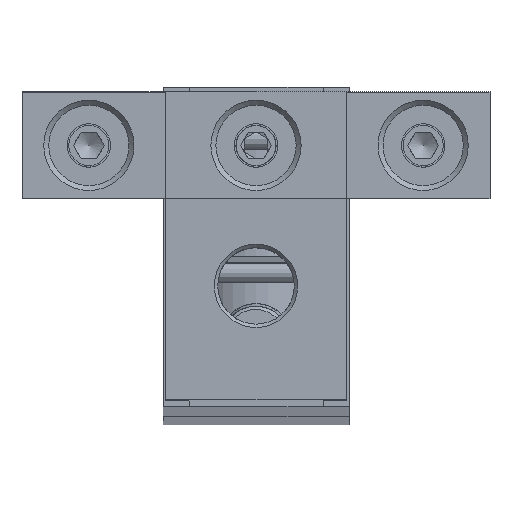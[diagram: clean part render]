
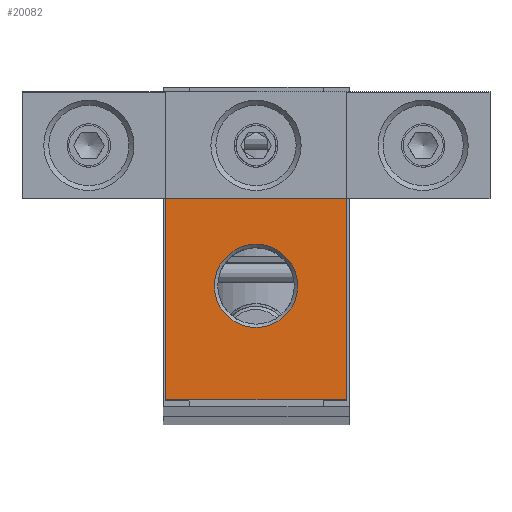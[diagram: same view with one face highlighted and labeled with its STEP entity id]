
A CAD part, top view. The second image highlights one B-rep face of the part: STEP entity #20082.
In plain terms, the highlighted planar face has unit normal (0, 0, 1).
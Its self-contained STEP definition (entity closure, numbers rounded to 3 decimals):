
#1331=LINE('',#38674,#2232);
#1348=LINE('',#38707,#2249);
#1355=LINE('',#38725,#2256);
#1358=LINE('',#38761,#2259);
#2232=VECTOR('',#27533,10.);
#2249=VECTOR('',#27556,10.);
#2256=VECTOR('',#27579,10.);
#2259=VECTOR('',#27592,10.);
#3089=FACE_BOUND('',#5191,.T.);
#3905=FACE_OUTER_BOUND('',#5190,.T.);
#5190=EDGE_LOOP('',(#16181,#16182,#16183,#16184));
#5191=EDGE_LOOP('',(#16185));
#6731=CIRCLE('',#22424,6.223);
#8667=VERTEX_POINT('',#38671);
#8668=VERTEX_POINT('',#38673);
#8680=VERTEX_POINT('',#38704);
#8681=VERTEX_POINT('',#38706);
#8691=VERTEX_POINT('',#38762);
#11295=EDGE_CURVE('',#8667,#8668,#1331,.T.);
#11312=EDGE_CURVE('',#8680,#8681,#1348,.T.);
#11323=EDGE_CURVE('',#8680,#8668,#1355,.T.);
#11331=EDGE_CURVE('',#8667,#8681,#1358,.T.);
#11332=EDGE_CURVE('',#8691,#8691,#6731,.T.);
#16181=ORIENTED_EDGE('',*,*,#11331,.T.);
#16182=ORIENTED_EDGE('',*,*,#11312,.F.);
#16183=ORIENTED_EDGE('',*,*,#11323,.T.);
#16184=ORIENTED_EDGE('',*,*,#11295,.F.);
#16185=ORIENTED_EDGE('',*,*,#11332,.F.);
#18074=PLANE('',#22423);
#20082=ADVANCED_FACE('',(#3905,#3089),#18074,.T.);
#22423=AXIS2_PLACEMENT_3D('',#38760,#27590,#27591);
#22424=AXIS2_PLACEMENT_3D('',#38763,#27593,#27594);
#27533=DIRECTION('',(0.,-1.,0.));
#27556=DIRECTION('',(0.,1.,0.));
#27579=DIRECTION('',(1.,0.,0.));
#27590=DIRECTION('center_axis',(0.,0.,
1.));
#27591=DIRECTION('ref_axis',(0.,-1.,0.));
#27592=DIRECTION('',(-1.,0.,0.));
#27593=DIRECTION('center_axis',(0.,0.,
1.));
#27594=DIRECTION('ref_axis',(-1.,0.,0.));
#38671=CARTESIAN_POINT('',(13.45,7.1,435.));
#38673=CARTESIAN_POINT('',(13.45,-22.9,435.));
#38674=CARTESIAN_POINT('',(13.45,23.1,435.));
#38704=CARTESIAN_POINT('',(-13.55,-22.9,435.));
#38706=CARTESIAN_POINT('',(-13.55,7.1,435.));
#38707=CARTESIAN_POINT('',(-13.55,23.1,435.));
#38725=CARTESIAN_POINT('',(-0.05,-22.9,435.));
#38760=CARTESIAN_POINT('Origin',(-0.05,23.1,435.));
#38761=CARTESIAN_POINT('',(-17.55,7.1,435.));
#38762=CARTESIAN_POINT('',(6.173,-5.9,435.));
#38763=CARTESIAN_POINT('Origin',(-0.05,-5.9,
435.));
